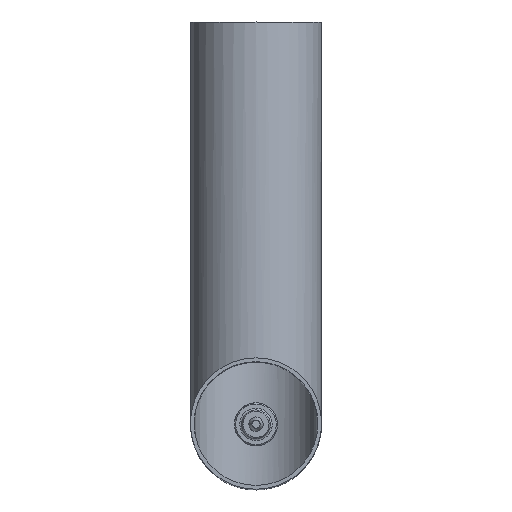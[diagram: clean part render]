
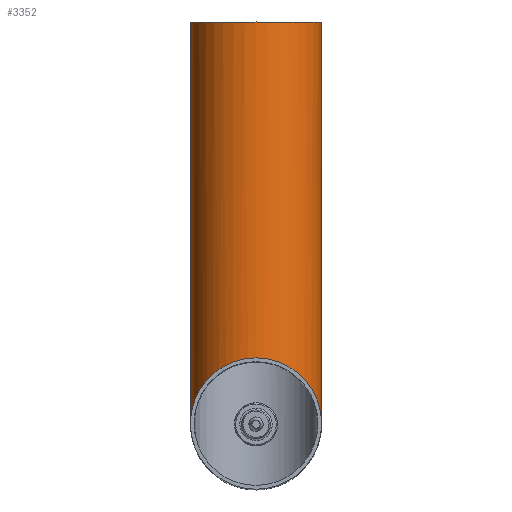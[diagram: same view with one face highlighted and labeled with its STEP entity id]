
A CAD part, top view. The second image highlights one B-rep face of the part: STEP entity #3352.
In plain terms, the highlighted cylindrical face has radius 36.5 mm (diameter 73 mm), a full revolution.
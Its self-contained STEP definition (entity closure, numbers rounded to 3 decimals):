
#646=CIRCLE('',#5165,36.5);
#718=B_SPLINE_CURVE_WITH_KNOTS('',3,(#6080,#6081,#6082,#6083,#6084,#6085,
#6086,#6087,#6088,#6089,#6090,#6091,#6092,#6093,#6094,#6095,#6096,#6097,
#6098),.UNSPECIFIED.,.T.,.F.,(1,1,1,1,1,1,1,1,1,1,1,1,1,1,1,1,1,1,1,1,1,
1,1),(-0.014,-0.009,-0.005,0.,
0.005,0.009,0.014,0.019,
0.024,0.028,0.033,0.038,
0.042,0.047,0.052,0.057,
0.061,0.066,0.071,0.076,
0.08,0.085,0.09),.UNSPECIFIED.);
#918=ORIENTED_EDGE('',*,*,#1894,.T.);
#919=ORIENTED_EDGE('',*,*,#1895,.F.);
#920=ORIENTED_EDGE('',*,*,#1896,.F.);
#1894=EDGE_CURVE('',#2382,#2382,#646,.T.);
#1895=EDGE_CURVE('',#2383,#2383,#2709,.T.);
#1896=EDGE_CURVE('',#2384,#2384,#718,.T.);
#2382=VERTEX_POINT('',#6077);
#2383=VERTEX_POINT('',#6079);
#2384=VERTEX_POINT('',#6099);
#2709=ELLIPSE('',#5166,51.619,36.5);
#2718=EDGE_LOOP('',(#918));
#2719=EDGE_LOOP('',(#919));
#2720=EDGE_LOOP('',(#920));
#3017=FACE_BOUND('',#2718,.T.);
#3018=FACE_BOUND('',#2719,.T.);
#3019=FACE_BOUND('',#2720,.T.);
#3314=CYLINDRICAL_SURFACE('',#5164,36.5);
#3352=ADVANCED_FACE('',(#3017,#3018,#3019),#3314,.T.);
#5164=AXIS2_PLACEMENT_3D('',#6075,#5396,#5397);
#5165=AXIS2_PLACEMENT_3D('',#6076,#5398,#5399);
#5166=AXIS2_PLACEMENT_3D('',#6078,#5400,#5401);
#5396=DIRECTION('',(0.,-1.,0.));
#5397=DIRECTION('',(0.,0.,-1.));
#5398=DIRECTION('',(0.,-1.,0.));
#5399=DIRECTION('',(0.,0.,-1.));
#5400=DIRECTION('',(0.,-0.707,0.707));
#5401=DIRECTION('',(0.,-0.707,-0.707));
#6075=CARTESIAN_POINT('',(0.,246.5,0.));
#6076=CARTESIAN_POINT('',(0.,223.5,0.));
#6077=CARTESIAN_POINT('',(0.,223.5,-36.5));
#6078=CARTESIAN_POINT('',(0.,0.,0.));
#6079=CARTESIAN_POINT('',(0.,-36.5,-36.5));
#6080=CARTESIAN_POINT('',(-4.749,11.36,-36.282));
#6081=CARTESIAN_POINT('',(0.001,12.32,-36.609));
#6082=CARTESIAN_POINT('',(4.746,11.361,-36.283));
#6083=CARTESIAN_POINT('',(8.705,8.698,-35.503));
#6084=CARTESIAN_POINT('',(11.361,4.743,-34.703));
#6085=CARTESIAN_POINT('',(12.318,0.011,-34.355));
#6086=CARTESIAN_POINT('',(11.366,-4.736,-34.701));
#6087=CARTESIAN_POINT('',(8.7,-8.704,-35.504));
#6088=CARTESIAN_POINT('',(4.741,-11.362,-36.283));
#6089=CARTESIAN_POINT('',(0.006,-12.318,-36.608));
#6090=CARTESIAN_POINT('',(-4.735,-11.366,-36.284));
#6091=CARTESIAN_POINT('',(-8.701,-8.703,-35.504));
#6092=CARTESIAN_POINT('',(-11.363,-4.741,-34.702));
#6093=CARTESIAN_POINT('',(-12.318,-0.002,-34.355));
#6094=CARTESIAN_POINT('',(-11.364,4.74,-34.702));
#6095=CARTESIAN_POINT('',(-8.704,8.699,-35.503));
#6096=CARTESIAN_POINT('',(-4.749,11.36,-36.282));
#6097=CARTESIAN_POINT('',(0.001,12.32,-36.609));
#6098=CARTESIAN_POINT('',(4.746,11.361,-36.283));
#6099=CARTESIAN_POINT('',(0.,12.,-36.5));
